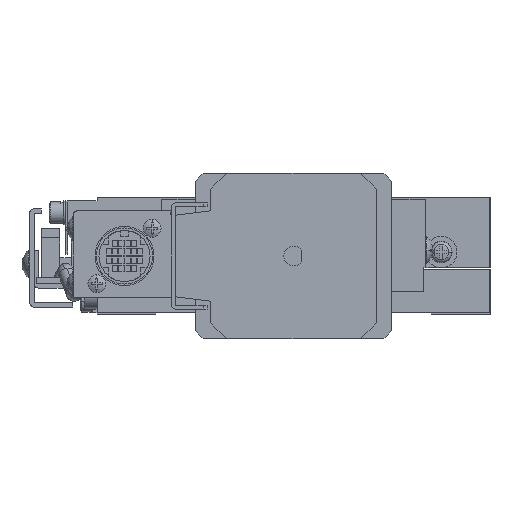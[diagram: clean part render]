
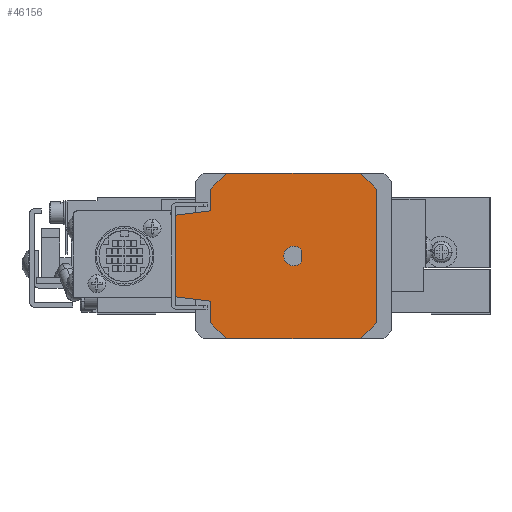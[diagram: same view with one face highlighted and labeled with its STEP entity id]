
A CAD part, left-side view. The second image highlights one B-rep face of the part: STEP entity #46156.
In plain terms, the highlighted planar face has unit normal (-1, 0, 0).
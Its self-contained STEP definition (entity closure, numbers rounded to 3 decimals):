
#304 = VECTOR ( 'NONE', #44621, 1000. ) ;
#803 = VECTOR ( 'NONE', #41308, 1000. ) ;
#2316 = DIRECTION ( 'NONE',  ( 0., 0., 1. ) ) ;
#2913 = DIRECTION ( 'NONE',  ( 0., 0., -1. ) ) ;
#3107 = CARTESIAN_POINT ( 'NONE',  ( -211.28, 534.646, -49.405 ) ) ;
#3255 = AXIS2_PLACEMENT_3D ( 'NONE', #10193, #15128, #43100 ) ;
#3449 = CARTESIAN_POINT ( 'NONE',  ( -211.28, 553.646, -67.876 ) ) ;
#3855 = CIRCLE ( 'NONE', #10602, 27. ) ;
#4033 = EDGE_CURVE ( 'NONE', #25336, #36584, #29130, .T. ) ;
#4720 = DIRECTION ( 'NONE',  ( 1., 0., 0. ) ) ;
#5276 = ORIENTED_EDGE ( 'NONE', *, *, #34018, .F. ) ;
#5436 = VERTEX_POINT ( 'NONE', #57032 ) ;
#5894 = VECTOR ( 'NONE', #23308, 1000. ) ;
#6841 = VERTEX_POINT ( 'NONE', #52656 ) ;
#7428 = LINE ( 'NONE', #30357, #58977 ) ;
#7609 = VECTOR ( 'NONE', #2316, 1000. ) ;
#8915 = EDGE_CURVE ( 'NONE', #47518, #6841, #28181, .T. ) ;
#9077 = FACE_BOUND ( 'NONE', #45900, .T. ) ;
#9155 = ORIENTED_EDGE ( 'NONE', *, *, #49801, .F. ) ;
#9805 = DIRECTION ( 'NONE',  ( 0., 0., 1. ) ) ;
#10193 = CARTESIAN_POINT ( 'NONE',  ( -211.28, 585.146, -76.328 ) ) ;
#10373 = ORIENTED_EDGE ( 'NONE', *, *, #4033, .F. ) ;
#10602 = AXIS2_PLACEMENT_3D ( 'NONE', #26374, #12018, #21450 ) ;
#11022 = EDGE_CURVE ( 'NONE', #5436, #28382, #55800, .T. ) ;
#11273 = DIRECTION ( 'NONE',  ( 0., -1., 0. ) ) ;
#11407 = ORIENTED_EDGE ( 'NONE', *, *, #18015, .F. ) ;
#12018 = DIRECTION ( 'NONE',  ( 1., 0., 0. ) ) ;
#12157 = AXIS2_PLACEMENT_3D ( 'NONE', #56350, #4720, #46304 ) ;
#12867 = LINE ( 'NONE', #34795, #17915 ) ;
#13313 = ORIENTED_EDGE ( 'NONE', *, *, #37737, .F. ) ;
#13612 = VERTEX_POINT ( 'NONE', #41322 ) ;
#14187 = CARTESIAN_POINT ( 'NONE',  ( -211.28, 576.646, -49.405 ) ) ;
#14665 = EDGE_CURVE ( 'NONE', #21111, #47518, #37844, .T. ) ;
#15128 = DIRECTION ( 'NONE',  ( 1., 0., 0. ) ) ;
#15357 = AXIS2_PLACEMENT_3D ( 'NONE', #43451, #43647, #39110 ) ;
#15409 = EDGE_LOOP ( 'NONE', ( #46535, #45501, #32897, #22873, #10373, #31977, #5276, #31345, #31749, #19055, #11407, #48168, #40824, #9155 ) ) ;
#15597 = CARTESIAN_POINT ( 'NONE',  ( -211.28, 585.646, -76.328 ) ) ;
#15770 = VERTEX_POINT ( 'NONE', #20703 ) ;
#16385 = CARTESIAN_POINT ( 'NONE',  ( -211.28, 609.697, -115.927 ) ) ;
#16400 = CIRCLE ( 'NONE', #15357, 2.5 ) ;
#17379 = EDGE_CURVE ( 'NONE', #56344, #25336, #41331, .T. ) ;
#17915 = VECTOR ( 'NONE', #21219, 1000. ) ;
#18015 = EDGE_CURVE ( 'NONE', #25644, #30070, #22843, .T. ) ;
#18323 = AXIS2_PLACEMENT_3D ( 'NONE', #16385, #49497, #20899 ) ;
#19055 = ORIENTED_EDGE ( 'NONE', *, *, #53766, .F. ) ;
#19123 = LINE ( 'NONE', #37784, #28669 ) ;
#20703 = CARTESIAN_POINT ( 'NONE',  ( -211.28, 538.675, -87.376 ) ) ;
#20899 = DIRECTION ( 'NONE',  ( 0., 0., 1. ) ) ;
#20962 = DIRECTION ( 'NONE',  ( 0., 1., 0. ) ) ;
#21111 = VERTEX_POINT ( 'NONE', #15597 ) ;
#21219 = DIRECTION ( 'NONE',  ( 0., 1., 0. ) ) ;
#21450 = DIRECTION ( 'NONE',  ( 0., -0.778, -0.629 ) ) ;
#22843 = LINE ( 'NONE', #37706, #5894 ) ;
#22873 = ORIENTED_EDGE ( 'NONE', *, *, #60069, .F. ) ;
#23308 = DIRECTION ( 'NONE',  ( 0., 0.993, 0.122 ) ) ;
#25336 = VERTEX_POINT ( 'NONE', #14187 ) ;
#25434 = PLANE ( 'NONE',  #18323 ) ;
#25644 = VERTEX_POINT ( 'NONE', #40867 ) ;
#26374 = CARTESIAN_POINT ( 'NONE',  ( -211.28, 555.646, -66.376 ) ) ;
#26684 = FACE_OUTER_BOUND ( 'NONE', #15409, .T. ) ;
#27738 = CARTESIAN_POINT ( 'NONE',  ( -211.28, 585.207, -55.927 ) ) ;
#28181 = CIRCLE ( 'NONE', #55596, 0.5 ) ;
#28382 = VERTEX_POINT ( 'NONE', #29392 ) ;
#28669 = VECTOR ( 'NONE', #9805, 1000. ) ;
#28686 = DIRECTION ( 'NONE',  ( 1., 0., 0. ) ) ;
#29130 = CIRCLE ( 'NONE', #51437, 27. ) ;
#29296 = CARTESIAN_POINT ( 'NONE',  ( -211.28, 585.646, -56.423 ) ) ;
#29392 = CARTESIAN_POINT ( 'NONE',  ( -211.28, 534.646, -83.346 ) ) ;
#30070 = VERTEX_POINT ( 'NONE', #54171 ) ;
#30191 = AXIS2_PLACEMENT_3D ( 'NONE', #50733, #50132, #55239 ) ;
#30357 = CARTESIAN_POINT ( 'NONE',  ( -211.28, 572.616, -45.376 ) ) ;
#30724 = VERTEX_POINT ( 'NONE', #47994 ) ;
#31345 = ORIENTED_EDGE ( 'NONE', *, *, #8915, .F. ) ;
#31484 = VERTEX_POINT ( 'NONE', #3449 ) ;
#31749 = ORIENTED_EDGE ( 'NONE', *, *, #14665, .F. ) ;
#31977 = ORIENTED_EDGE ( 'NONE', *, *, #17379, .F. ) ;
#32008 = CIRCLE ( 'NONE', #3255, 0.5 ) ;
#32065 = CIRCLE ( 'NONE', #12157, 27. ) ;
#32209 = EDGE_CURVE ( 'NONE', #13612, #25644, #54774, .T. ) ;
#32845 = CARTESIAN_POINT ( 'NONE',  ( -211.28, 538.675, -45.376 ) ) ;
#32897 = ORIENTED_EDGE ( 'NONE', *, *, #56468, .F. ) ;
#33375 = EDGE_CURVE ( 'NONE', #28382, #15770, #3855, .T. ) ;
#34018 = EDGE_CURVE ( 'NONE', #6841, #56344, #36206, .T. ) ;
#34225 = VERTEX_POINT ( 'NONE', #32845 ) ;
#34795 = CARTESIAN_POINT ( 'NONE',  ( -211.28, 538.675, -87.376 ) ) ;
#36206 = LINE ( 'NONE', #27738, #60575 ) ;
#36584 = VERTEX_POINT ( 'NONE', #55893 ) ;
#36671 = VECTOR ( 'NONE', #2913, 1000. ) ;
#37706 = CARTESIAN_POINT ( 'NONE',  ( -211.28, 576.646, -77.876 ) ) ;
#37737 = EDGE_CURVE ( 'NONE', #31484, #30724, #19123, .T. ) ;
#37784 = CARTESIAN_POINT ( 'NONE',  ( -211.28, 553.646, -67.876 ) ) ;
#37844 = LINE ( 'NONE', #45126, #7609 ) ;
#39110 = DIRECTION ( 'NONE',  ( 0., -0.8, -0.6 ) ) ;
#39701 = CARTESIAN_POINT ( 'NONE',  ( -211.28, 585.146, -56.423 ) ) ;
#40003 = EDGE_CURVE ( 'NONE', #60711, #13612, #32065, .T. ) ;
#40824 = ORIENTED_EDGE ( 'NONE', *, *, #40003, .F. ) ;
#40867 = CARTESIAN_POINT ( 'NONE',  ( -211.28, 576.646, -77.876 ) ) ;
#41130 = ORIENTED_EDGE ( 'NONE', *, *, #58281, .T. ) ;
#41308 = DIRECTION ( 'NONE',  ( 0., 0., 1. ) ) ;
#41322 = CARTESIAN_POINT ( 'NONE',  ( -211.28, 576.646, -83.346 ) ) ;
#41331 = LINE ( 'NONE', #55879, #803 ) ;
#43100 = DIRECTION ( 'NONE',  ( 0., 0.122, -0.993 ) ) ;
#43451 = CARTESIAN_POINT ( 'NONE',  ( -211.28, 555.646, -66.376 ) ) ;
#43587 = CARTESIAN_POINT ( 'NONE',  ( -211.28, 576.646, -54.876 ) ) ;
#43647 = DIRECTION ( 'NONE',  ( 1., 0., 0. ) ) ;
#44621 = DIRECTION ( 'NONE',  ( 0., 0., 1. ) ) ;
#45126 = CARTESIAN_POINT ( 'NONE',  ( -211.28, 585.646, -76.328 ) ) ;
#45447 = CIRCLE ( 'NONE', #30191, 27. ) ;
#45501 = ORIENTED_EDGE ( 'NONE', *, *, #11022, .F. ) ;
#45532 = CARTESIAN_POINT ( 'NONE',  ( -211.28, 572.616, -87.376 ) ) ;
#45900 = EDGE_LOOP ( 'NONE', ( #41130, #13313 ) ) ;
#46156 = ADVANCED_FACE ( 'NONE', ( #26684, #9077 ), #25434, .F. ) ;
#46304 = DIRECTION ( 'NONE',  ( 0., 0.629, -0.778 ) ) ;
#46535 = ORIENTED_EDGE ( 'NONE', *, *, #33375, .F. ) ;
#47236 = CARTESIAN_POINT ( 'NONE',  ( -211.28, 555.646, -66.376 ) ) ;
#47518 = VERTEX_POINT ( 'NONE', #29296 ) ;
#47994 = CARTESIAN_POINT ( 'NONE',  ( -211.28, 553.646, -64.876 ) ) ;
#48168 = ORIENTED_EDGE ( 'NONE', *, *, #32209, .F. ) ;
#49147 = DIRECTION ( 'NONE',  ( 1., 0., 0. ) ) ;
#49497 = DIRECTION ( 'NONE',  ( 1., 0., 0. ) ) ;
#49801 = EDGE_CURVE ( 'NONE', #15770, #60711, #12867, .T. ) ;
#50132 = DIRECTION ( 'NONE',  ( 1., 0., 0. ) ) ;
#50733 = CARTESIAN_POINT ( 'NONE',  ( -211.28, 555.646, -66.376 ) ) ;
#51437 = AXIS2_PLACEMENT_3D ( 'NONE', #47236, #28686, #56469 ) ;
#52656 = CARTESIAN_POINT ( 'NONE',  ( -211.28, 585.207, -55.927 ) ) ;
#53444 = CARTESIAN_POINT ( 'NONE',  ( -211.28, 576.646, -83.346 ) ) ;
#53766 = EDGE_CURVE ( 'NONE', #30070, #21111, #32008, .T. ) ;
#54171 = CARTESIAN_POINT ( 'NONE',  ( -211.28, 585.207, -76.824 ) ) ;
#54774 = LINE ( 'NONE', #53444, #304 ) ;
#55239 = DIRECTION ( 'NONE',  ( 0., -0.629, 0.778 ) ) ;
#55284 = DIRECTION ( 'NONE',  ( 0., -0.993, 0.122 ) ) ;
#55596 = AXIS2_PLACEMENT_3D ( 'NONE', #39701, #49147, #20962 ) ;
#55800 = LINE ( 'NONE', #3107, #36671 ) ;
#55879 = CARTESIAN_POINT ( 'NONE',  ( -211.28, 576.646, -54.876 ) ) ;
#55893 = CARTESIAN_POINT ( 'NONE',  ( -211.28, 572.616, -45.376 ) ) ;
#56344 = VERTEX_POINT ( 'NONE', #43587 ) ;
#56350 = CARTESIAN_POINT ( 'NONE',  ( -211.28, 555.646, -66.376 ) ) ;
#56468 = EDGE_CURVE ( 'NONE', #34225, #5436, #45447, .T. ) ;
#56469 = DIRECTION ( 'NONE',  ( 0., 0.778, 0.629 ) ) ;
#57032 = CARTESIAN_POINT ( 'NONE',  ( -211.28, 534.646, -49.405 ) ) ;
#58281 = EDGE_CURVE ( 'NONE', #31484, #30724, #16400, .T. ) ;
#58977 = VECTOR ( 'NONE', #11273, 1000. ) ;
#60069 = EDGE_CURVE ( 'NONE', #36584, #34225, #7428, .T. ) ;
#60575 = VECTOR ( 'NONE', #55284, 1000. ) ;
#60711 = VERTEX_POINT ( 'NONE', #45532 ) ;
